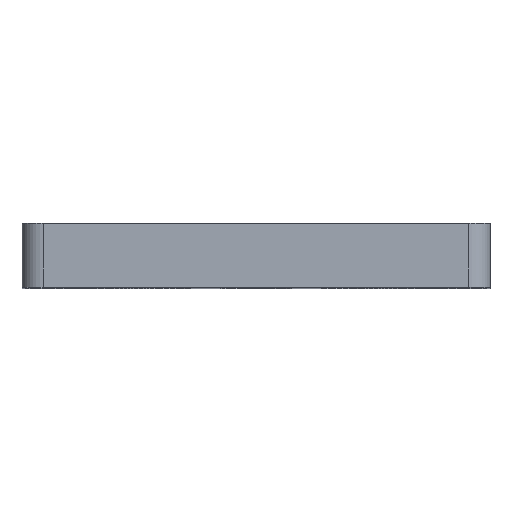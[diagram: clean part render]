
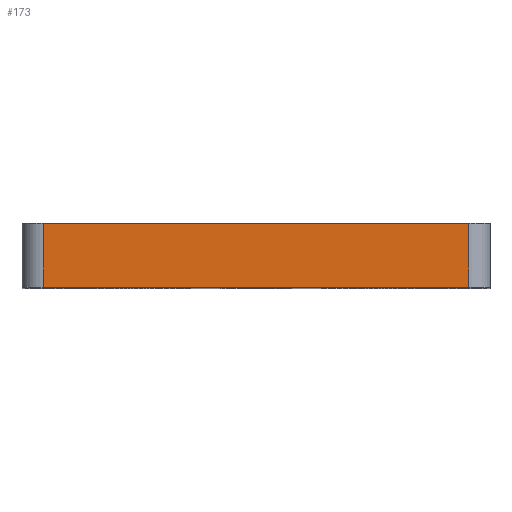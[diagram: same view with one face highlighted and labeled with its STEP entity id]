
A CAD part, top view. The second image highlights one B-rep face of the part: STEP entity #173.
In plain terms, the highlighted planar face has unit normal (0, 0, 1).
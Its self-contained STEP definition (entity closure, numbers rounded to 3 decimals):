
#173 = ADVANCED_FACE( '', ( #445 ), #446, .T. );
#445 = FACE_OUTER_BOUND( '', #832, .T. );
#446 = PLANE( '', #833 );
#832 = EDGE_LOOP( '', ( #1301, #1302, #1303, #1304 ) );
#833 = AXIS2_PLACEMENT_3D( '', #1305, #1306, #1307 );
#1301 = ORIENTED_EDGE( '', *, *, #1748, .F. );
#1302 = ORIENTED_EDGE( '', *, *, #1759, .T. );
#1303 = ORIENTED_EDGE( '', *, *, #1760, .T. );
#1304 = ORIENTED_EDGE( '', *, *, #1663, .T. );
#1305 = CARTESIAN_POINT( '', ( 34.925, 9.525, 50.8 ) );
#1306 = DIRECTION( '', ( 0., 0., 1. ) );
#1307 = DIRECTION( '', ( 1., 0., 0. ) );
#1663 = EDGE_CURVE( '', #1882, #1886, #1888, .T. );
#1748 = EDGE_CURVE( '', #2025, #1886, #2027, .T. );
#1759 = EDGE_CURVE( '', #2025, #2047, #2048, .F. );
#1760 = EDGE_CURVE( '', #2047, #1882, #2049, .T. );
#1882 = VERTEX_POINT( '', #2209 );
#1886 = VERTEX_POINT( '', #2214 );
#1888 = LINE( '', #2216, #2217 );
#2025 = VERTEX_POINT( '', #2364 );
#2027 = LINE( '', #2366, #2367 );
#2047 = VERTEX_POINT( '', #2387 );
#2048 = LINE( '', #2388, #2389 );
#2049 = LINE( '', #2390, #2391 );
#2209 = CARTESIAN_POINT( '', ( -31.75, 9.525, 50.8 ) );
#2214 = CARTESIAN_POINT( '', ( -31.75, 0., 50.8 ) );
#2216 = CARTESIAN_POINT( '', ( -31.75, 9.525, 50.8 ) );
#2217 = VECTOR( '', #2563, 1000. );
#2364 = CARTESIAN_POINT( '', ( 31.75, 0., 50.8 ) );
#2366 = CARTESIAN_POINT( '', ( 34.925, 0., 50.8 ) );
#2367 = VECTOR( '', #2718, 1000. );
#2387 = CARTESIAN_POINT( '', ( 31.75, 9.525, 50.8 ) );
#2388 = CARTESIAN_POINT( '', ( 31.75, 9.525, 50.8 ) );
#2389 = VECTOR( '', #2746, 1000. );
#2390 = CARTESIAN_POINT( '', ( 34.925, 9.525, 50.8 ) );
#2391 = VECTOR( '', #2747, 1000. );
#2563 = DIRECTION( '', ( 0., -1., 0. ) );
#2718 = DIRECTION( '', ( -1., 0., 0. ) );
#2746 = DIRECTION( '', ( 0., -1., 0. ) );
#2747 = DIRECTION( '', ( -1., 0., 0. ) );
